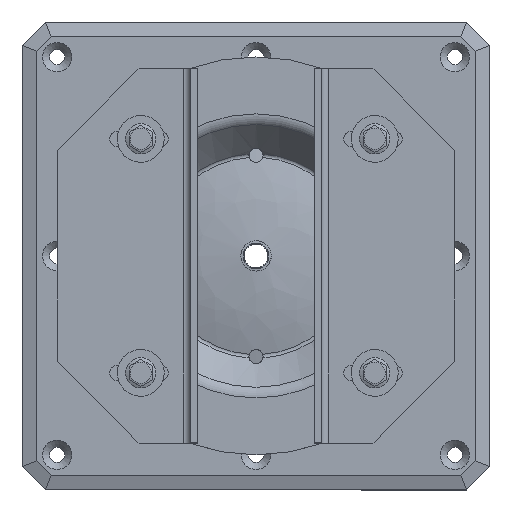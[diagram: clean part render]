
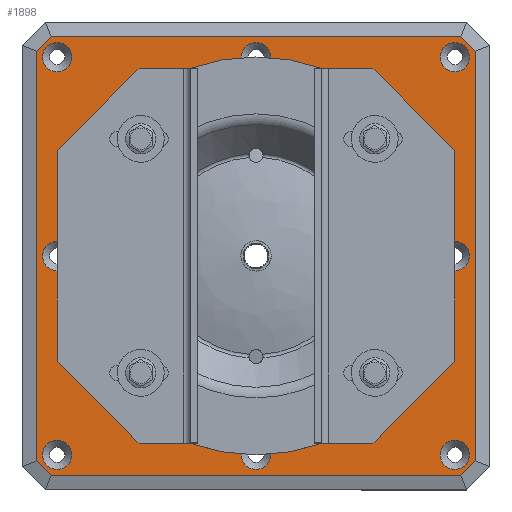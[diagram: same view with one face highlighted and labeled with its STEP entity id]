
A CAD part, top view. The second image highlights one B-rep face of the part: STEP entity #1898.
In plain terms, the highlighted planar face has unit normal (0, 0, 1).
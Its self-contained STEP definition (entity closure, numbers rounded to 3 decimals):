
#185=FACE_BOUND('',#448,.T.);
#186=FACE_BOUND('',#449,.T.);
#187=FACE_BOUND('',#450,.T.);
#188=FACE_BOUND('',#451,.T.);
#189=FACE_BOUND('',#452,.T.);
#190=FACE_BOUND('',#453,.T.);
#191=FACE_BOUND('',#454,.T.);
#192=FACE_BOUND('',#455,.T.);
#193=FACE_BOUND('',#456,.T.);
#228=CIRCLE('',#2220,50.);
#229=CIRCLE('',#2221,6.25);
#230=CIRCLE('',#2222,6.25);
#231=CIRCLE('',#2223,6.25);
#232=CIRCLE('',#2224,6.25);
#233=CIRCLE('',#2225,6.25);
#234=CIRCLE('',#2226,6.25);
#235=CIRCLE('',#2227,6.25);
#236=CIRCLE('',#2228,6.25);
#340=FACE_OUTER_BOUND('',#447,.T.);
#447=EDGE_LOOP('',(#1339,#1340,#1341,#1342,#1343,#1344,#1345,#1346));
#448=EDGE_LOOP('',(#1347));
#449=EDGE_LOOP('',(#1348));
#450=EDGE_LOOP('',(#1349));
#451=EDGE_LOOP('',(#1350));
#452=EDGE_LOOP('',(#1351));
#453=EDGE_LOOP('',(#1352));
#454=EDGE_LOOP('',(#1353));
#455=EDGE_LOOP('',(#1354));
#456=EDGE_LOOP('',(#1355));
#585=LINE('',#3010,#716);
#589=LINE('',#3018,#720);
#592=LINE('',#3024,#723);
#595=LINE('',#3030,#726);
#598=LINE('',#3036,#729);
#602=LINE('',#3044,#733);
#605=LINE('',#3050,#736);
#608=LINE('',#3054,#739);
#716=VECTOR('',#2435,10.);
#720=VECTOR('',#2441,10.);
#723=VECTOR('',#2446,10.);
#726=VECTOR('',#2451,10.);
#729=VECTOR('',#2456,10.);
#733=VECTOR('',#2462,10.);
#736=VECTOR('',#2467,10.);
#739=VECTOR('',#2472,10.);
#847=VERTEX_POINT('',#3008);
#848=VERTEX_POINT('',#3009);
#851=VERTEX_POINT('',#3017);
#853=VERTEX_POINT('',#3023);
#855=VERTEX_POINT('',#3029);
#857=VERTEX_POINT('',#3035);
#860=VERTEX_POINT('',#3043);
#862=VERTEX_POINT('',#3049);
#868=VERTEX_POINT('',#3074);
#869=VERTEX_POINT('',#3076);
#870=VERTEX_POINT('',#3078);
#871=VERTEX_POINT('',#3080);
#872=VERTEX_POINT('',#3082);
#873=VERTEX_POINT('',#3084);
#874=VERTEX_POINT('',#3086);
#875=VERTEX_POINT('',#3088);
#876=VERTEX_POINT('',#3090);
#1020=EDGE_CURVE('',#847,#848,#585,.T.);
#1024=EDGE_CURVE('',#848,#851,#589,.T.);
#1027=EDGE_CURVE('',#851,#853,#592,.T.);
#1030=EDGE_CURVE('',#853,#855,#595,.T.);
#1033=EDGE_CURVE('',#855,#857,#598,.T.);
#1037=EDGE_CURVE('',#857,#860,#602,.T.);
#1040=EDGE_CURVE('',#860,#862,#605,.T.);
#1043=EDGE_CURVE('',#862,#847,#608,.T.);
#1053=EDGE_CURVE('',#868,#868,#228,.T.);
#1054=EDGE_CURVE('',#869,#869,#229,.T.);
#1055=EDGE_CURVE('',#870,#870,#230,.T.);
#1056=EDGE_CURVE('',#871,#871,#231,.T.);
#1057=EDGE_CURVE('',#872,#872,#232,.T.);
#1058=EDGE_CURVE('',#873,#873,#233,.T.);
#1059=EDGE_CURVE('',#874,#874,#234,.T.);
#1060=EDGE_CURVE('',#875,#875,#235,.T.);
#1061=EDGE_CURVE('',#876,#876,#236,.T.);
#1339=ORIENTED_EDGE('',*,*,#1020,.F.);
#1340=ORIENTED_EDGE('',*,*,#1043,.F.);
#1341=ORIENTED_EDGE('',*,*,#1040,.F.);
#1342=ORIENTED_EDGE('',*,*,#1037,.F.);
#1343=ORIENTED_EDGE('',*,*,#1033,.F.);
#1344=ORIENTED_EDGE('',*,*,#1030,.F.);
#1345=ORIENTED_EDGE('',*,*,#1027,.F.);
#1346=ORIENTED_EDGE('',*,*,#1024,.F.);
#1347=ORIENTED_EDGE('',*,*,#1053,.T.);
#1348=ORIENTED_EDGE('',*,*,#1054,.T.);
#1349=ORIENTED_EDGE('',*,*,#1055,.T.);
#1350=ORIENTED_EDGE('',*,*,#1056,.T.);
#1351=ORIENTED_EDGE('',*,*,#1057,.T.);
#1352=ORIENTED_EDGE('',*,*,#1058,.T.);
#1353=ORIENTED_EDGE('',*,*,#1059,.T.);
#1354=ORIENTED_EDGE('',*,*,#1060,.T.);
#1355=ORIENTED_EDGE('',*,*,#1061,.T.);
#1845=PLANE('',#2219);
#1898=ADVANCED_FACE('',(#340,#185,#186,#187,#188,#189,#190,#191,#192,#193),
#1845,.T.);
#2219=AXIS2_PLACEMENT_3D('',#3073,#2490,#2491);
#2220=AXIS2_PLACEMENT_3D('',#3075,#2492,#2493);
#2221=AXIS2_PLACEMENT_3D('',#3077,#2494,#2495);
#2222=AXIS2_PLACEMENT_3D('',#3079,#2496,#2497);
#2223=AXIS2_PLACEMENT_3D('',#3081,#2498,#2499);
#2224=AXIS2_PLACEMENT_3D('',#3083,#2500,#2501);
#2225=AXIS2_PLACEMENT_3D('',#3085,#2502,#2503);
#2226=AXIS2_PLACEMENT_3D('',#3087,#2504,#2505);
#2227=AXIS2_PLACEMENT_3D('',#3089,#2506,#2507);
#2228=AXIS2_PLACEMENT_3D('',#3091,#2508,#2509);
#2435=DIRECTION('',(-1.,0.,0.));
#2441=DIRECTION('',(-0.707,0.707,0.));
#2446=DIRECTION('',(0.,1.,0.));
#2451=DIRECTION('',(0.707,0.707,0.));
#2456=DIRECTION('',(1.,0.,0.));
#2462=DIRECTION('',(0.707,-0.707,0.));
#2467=DIRECTION('',(0.,-1.,0.));
#2472=DIRECTION('',(-0.707,-0.707,0.));
#2490=DIRECTION('center_axis',(0.,0.,1.));
#2491=DIRECTION('ref_axis',(1.,0.,0.));
#2492=DIRECTION('center_axis',(0.,0.,-1.));
#2493=DIRECTION('ref_axis',(1.,0.,0.));
#2494=DIRECTION('center_axis',(0.,0.,-1.));
#2495=DIRECTION('ref_axis',(1.,0.,0.));
#2496=DIRECTION('center_axis',(0.,0.,-1.));
#2497=DIRECTION('ref_axis',(1.,0.,0.));
#2498=DIRECTION('center_axis',(0.,0.,-1.));
#2499=DIRECTION('ref_axis',(1.,0.,0.));
#2500=DIRECTION('center_axis',(0.,0.,-1.));
#2501=DIRECTION('ref_axis',(1.,0.,0.));
#2502=DIRECTION('center_axis',(0.,0.,-1.));
#2503=DIRECTION('ref_axis',(1.,0.,0.));
#2504=DIRECTION('center_axis',(0.,0.,-1.));
#2505=DIRECTION('ref_axis',(1.,0.,0.));
#2506=DIRECTION('center_axis',(0.,0.,-1.));
#2507=DIRECTION('ref_axis',(1.,0.,0.));
#2508=DIRECTION('center_axis',(0.,0.,-1.));
#2509=DIRECTION('ref_axis',(1.,0.,0.));
#3008=CARTESIAN_POINT('',(87.515,-94.,-7.));
#3009=CARTESIAN_POINT('',(-87.515,-94.,-7.));
#3010=CARTESIAN_POINT('',(90.,-94.,-7.));
#3017=CARTESIAN_POINT('',(-94.,-87.515,-7.));
#3018=CARTESIAN_POINT('',(-70.757,-110.757,-7.));
#3023=CARTESIAN_POINT('',(-94.,87.515,-7.));
#3024=CARTESIAN_POINT('',(-94.,-50.,-7.));
#3029=CARTESIAN_POINT('',(-87.515,94.,-7.));
#3030=CARTESIAN_POINT('',(-70.757,110.757,-7.));
#3035=CARTESIAN_POINT('',(87.515,94.,-7.));
#3036=CARTESIAN_POINT('',(-10.,94.,-7.));
#3043=CARTESIAN_POINT('',(94.,87.515,-7.));
#3044=CARTESIAN_POINT('',(110.757,70.757,-7.));
#3049=CARTESIAN_POINT('',(94.,-87.515,-7.));
#3050=CARTESIAN_POINT('',(94.,50.,-7.));
#3054=CARTESIAN_POINT('',(110.757,-70.757,-7.));
#3073=CARTESIAN_POINT('Origin',(80.,0.,-7.));
#3074=CARTESIAN_POINT('',(50.,0.,-7.));
#3075=CARTESIAN_POINT('Origin',(0.,0.,-7.));
#3076=CARTESIAN_POINT('',(-6.25,-85.,-7.));
#3077=CARTESIAN_POINT('Origin',(0.,-85.,-7.));
#3078=CARTESIAN_POINT('',(-6.25,85.,-7.));
#3079=CARTESIAN_POINT('Origin',(0.,85.,-7.));
#3080=CARTESIAN_POINT('',(-91.25,-85.,-7.));
#3081=CARTESIAN_POINT('Origin',(-85.,-85.,-7.));
#3082=CARTESIAN_POINT('',(78.75,85.,-7.));
#3083=CARTESIAN_POINT('Origin',(85.,85.,-7.));
#3084=CARTESIAN_POINT('',(-91.25,85.,-7.));
#3085=CARTESIAN_POINT('Origin',(-85.,85.,-7.));
#3086=CARTESIAN_POINT('',(78.75,-85.,-7.));
#3087=CARTESIAN_POINT('Origin',(85.,-85.,-7.));
#3088=CARTESIAN_POINT('',(-91.25,0.,-7.));
#3089=CARTESIAN_POINT('Origin',(-85.,0.,-7.));
#3090=CARTESIAN_POINT('',(78.75,0.,-7.));
#3091=CARTESIAN_POINT('Origin',(85.,0.,-7.));
